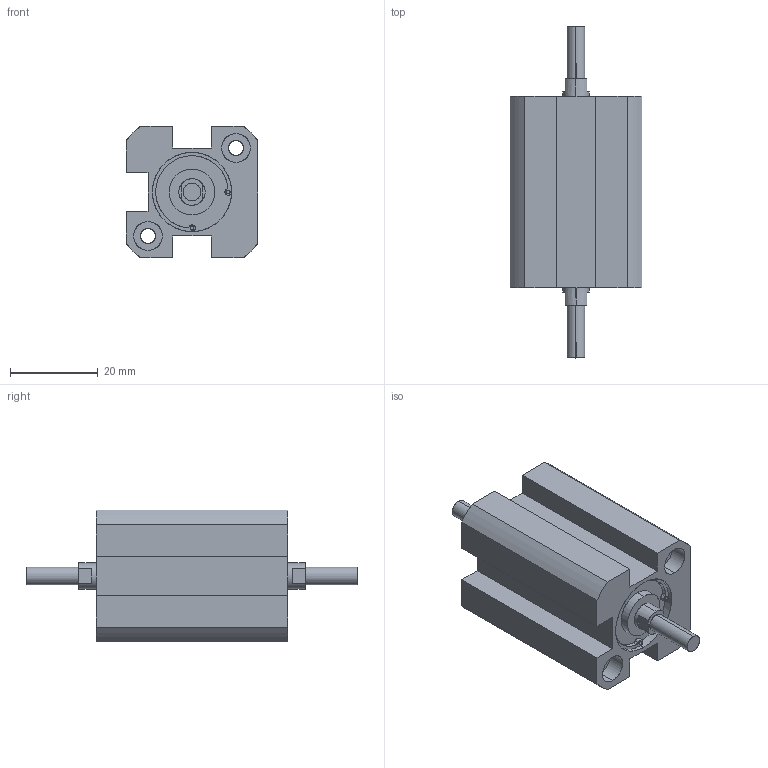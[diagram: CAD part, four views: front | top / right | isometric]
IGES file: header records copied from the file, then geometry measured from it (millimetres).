
Start section: SolidWorks IGES file using analytic representation for surfaces
Global section: file name: C:\Users\Toshiba\Desktop\XG#M7-16-10.IGS; native system: SolidWorks 2014; preprocessor: SolidWorks 2014; author: Toshiba; date: 160524.102141; units: millimetre
Bounding box: 30 x 75.5 x 30 mm (x, y, z)
Surface area: 9884.2 mm2 (no closed solid volume)
Topology: 0 solids, 0 shells, 106 faces, 1752 edges, 1748 vertices
Faces by surface type: revolution 62, bspline 44
